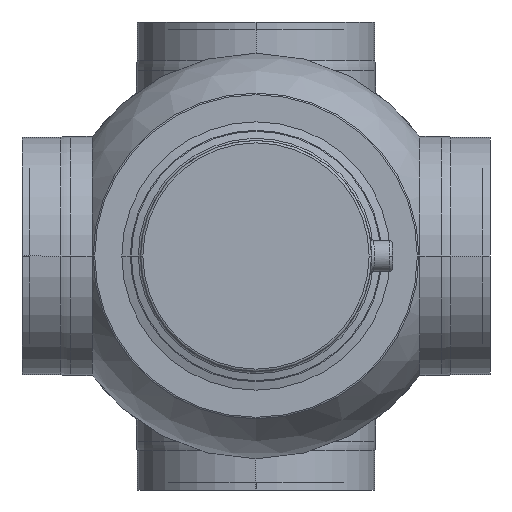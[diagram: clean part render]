
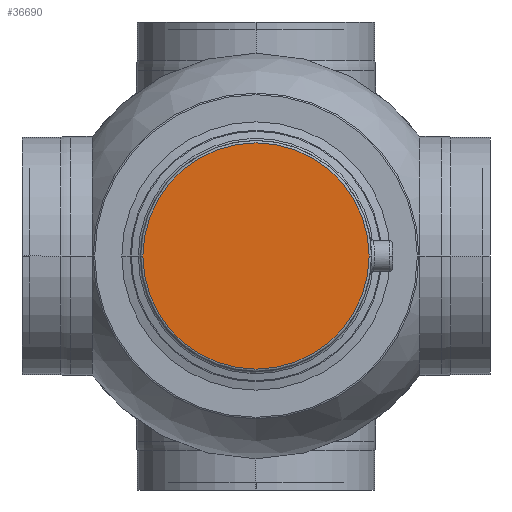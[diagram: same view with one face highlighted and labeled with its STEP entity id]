
A CAD part, front view. The second image highlights one B-rep face of the part: STEP entity #36690.
In plain terms, the highlighted planar face has unit normal (0, -1, 0).
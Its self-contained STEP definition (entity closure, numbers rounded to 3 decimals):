
#36490=CARTESIAN_POINT('',(72.25,0.,0.));
#36500=DIRECTION('',(-0.,1.,0.));
#36510=DIRECTION('',(1.,0.,0.));
#36520=AXIS2_PLACEMENT_3D('',#36490,#36500,#36510);
#36530=PLANE('',#36520);
#36540=CARTESIAN_POINT('',(0.,0.,0.));
#36550=DIRECTION('',(0.,-1.,0.));
#36560=DIRECTION('',(-1.,0.,0.));
#36570=AXIS2_PLACEMENT_3D('',#36540,#36550,#36560);
#36580=CIRCLE('',#36570,72.5);
#36590=CARTESIAN_POINT('',(-72.5,0.,0.));
#36600=VERTEX_POINT('',#36590);
#36610=CARTESIAN_POINT('',(72.5,0.,0.));
#36620=VERTEX_POINT('',#36610);
#36630=EDGE_CURVE('',#36600,#36620,#36580,.T.);
#36640=ORIENTED_EDGE('',*,*,#36630,.T.);
#36650=EDGE_CURVE('',#36620,#36600,#36580,.T.);
#36660=ORIENTED_EDGE('',*,*,#36650,.T.);
#36670=EDGE_LOOP('',(#36660,#36640));
#36680=FACE_OUTER_BOUND('',#36670,.T.);
#36690=ADVANCED_FACE('',(#36680),#36530,.F.);
